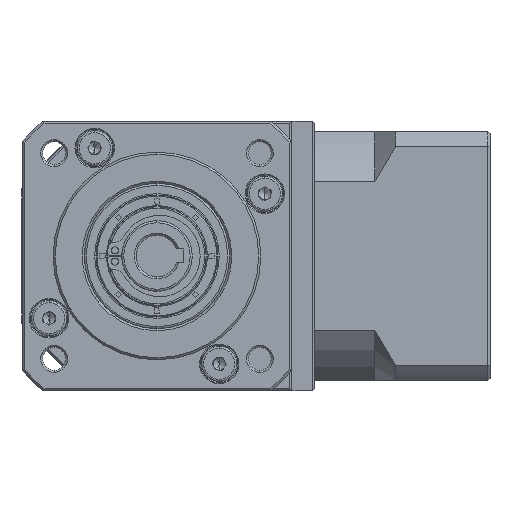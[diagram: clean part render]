
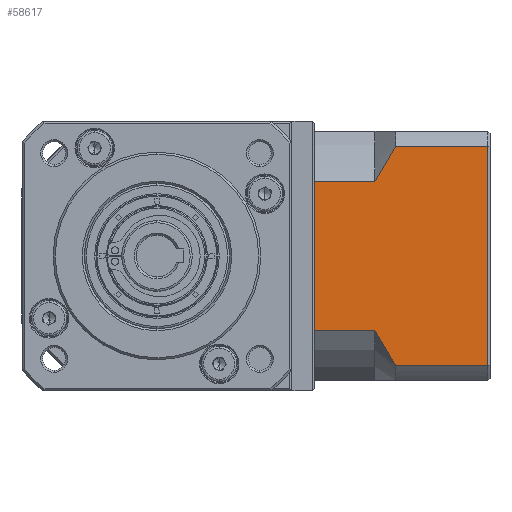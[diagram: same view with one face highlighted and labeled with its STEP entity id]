
A CAD part, left-side view. The second image highlights one B-rep face of the part: STEP entity #58617.
In plain terms, the highlighted planar face has unit normal (-1, 0, 0).
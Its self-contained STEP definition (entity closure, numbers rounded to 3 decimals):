
#356 = EDGE_CURVE ( 'NONE', #2606, #156313, #137931, .T. ) ;
#2606 = VERTEX_POINT ( 'NONE', #99422 ) ;
#3398 = CARTESIAN_POINT ( 'NONE',  ( 16.666, -16.042, 86.242 ) ) ;
#7091 = CARTESIAN_POINT ( 'NONE',  ( 16.666, -38.242, 82.7 ) ) ;
#7481 = VERTEX_POINT ( 'NONE', #78377 ) ;
#9018 = VECTOR ( 'NONE', #60978, 1000. ) ;
#11807 = CARTESIAN_POINT ( 'NONE',  ( 16.666, -11.042, 130.728 ) ) ;
#11902 = CARTESIAN_POINT ( 'NONE',  ( 16.666, -38.242, 86.242 ) ) ;
#12862 = LINE ( 'NONE', #11807, #9018 ) ;
#19590 = LINE ( 'NONE', #101811, #113269 ) ;
#20194 = AXIS2_PLACEMENT_3D ( 'NONE', #67089, #152457, #79294 ) ;
#24081 = VECTOR ( 'NONE', #120190, 1000. ) ;
#24131 = ORIENTED_EDGE ( 'NONE', *, *, #106243, .T. ) ;
#24356 = CARTESIAN_POINT ( 'NONE',  ( 16.666, -16.042, 86.242 ) ) ;
#27443 = CARTESIAN_POINT ( 'NONE',  ( 16.666, -11.793, 93.216 ) ) ;
#31497 = ORIENTED_EDGE ( 'NONE', *, *, #44736, .F. ) ;
#35590 = CARTESIAN_POINT ( 'NONE',  ( 16.666, -15.143, 137.798 ) ) ;
#39695 = ORIENTED_EDGE ( 'NONE', *, *, #108577, .T. ) ;
#43617 = CARTESIAN_POINT ( 'NONE',  ( 16.666, 3.458, 94.672 ) ) ;
#44736 = EDGE_CURVE ( 'NONE', #2606, #7481, #112936, .T. ) ;
#47858 = CARTESIAN_POINT ( 'NONE',  ( 16.666, -16.042, 139.158 ) ) ;
#48950 = EDGE_LOOP ( 'NONE', ( #111542, #24131, #31497, #78136, #126524, #76970, #112352, #39695 ) ) ;
#49771 = CARTESIAN_POINT ( 'NONE',  ( 16.666, -11.042, 139.158 ) ) ;
#56509 = LINE ( 'NONE', #156492, #24081 ) ;
#58617 = ADVANCED_FACE ( 'NONE', ( #70610 ), #91034, .F. ) ;
#60128 = CARTESIAN_POINT ( 'NONE',  ( 16.666, -11.79, 132.18 ) ) ;
#60978 = DIRECTION ( 'NONE',  ( 0., -1., 0. ) ) ;
#62065 = DIRECTION ( 'NONE',  ( 0., -1., 0. ) ) ;
#62519 = CARTESIAN_POINT ( 'NONE',  ( 16.666, -11.042, 130.728 ) ) ;
#64301 = CARTESIAN_POINT ( 'NONE',  ( 16.666, -12.593, 91.79 ) ) ;
#67089 = CARTESIAN_POINT ( 'NONE',  ( 16.666, -38.742, 82.7 ) ) ;
#67768 = EDGE_CURVE ( 'NONE', #74781, #97703, #56509, .T. ) ;
#68114 = LINE ( 'NONE', #156341, #96758 ) ;
#70610 = FACE_OUTER_BOUND ( 'NONE', #48950, .T. ) ;
#74781 = VERTEX_POINT ( 'NONE', #95345 ) ;
#74902 = VERTEX_POINT ( 'NONE', #24356 ) ;
#76008 = CARTESIAN_POINT ( 'NONE',  ( 16.666, -11.042, 94.672 ) ) ;
#76539 = CARTESIAN_POINT ( 'NONE',  ( 16.666, -15.141, 87.605 ) ) ;
#76970 = ORIENTED_EDGE ( 'NONE', *, *, #87639, .T. ) ;
#78136 = ORIENTED_EDGE ( 'NONE', *, *, #356, .T. ) ;
#78244 = DIRECTION ( 'NONE',  ( 0., 0., -1. ) ) ;
#78377 = CARTESIAN_POINT ( 'NONE',  ( 16.666, -38.242, 139.158 ) ) ;
#78499 = LINE ( 'NONE', #7091, #111028 ) ;
#79294 = DIRECTION ( 'NONE',  ( 0., 1., 0. ) ) ;
#79435 = VERTEX_POINT ( 'NONE', #11902 ) ;
#80168 = VERTEX_POINT ( 'NONE', #151051 ) ;
#80245 = DIRECTION ( 'NONE',  ( 0., 0., 1. ) ) ;
#80967 = CARTESIAN_POINT ( 'NONE',  ( 16.666, -11.042, 130.728 ) ) ;
#87639 = EDGE_CURVE ( 'NONE', #80168, #97703, #19590, .T. ) ;
#91034 = PLANE ( 'NONE',  #20194 ) ;
#95345 = CARTESIAN_POINT ( 'NONE',  ( 16.666, -11.042, 94.672 ) ) ;
#96758 = VECTOR ( 'NONE', #107756, 1000. ) ;
#97703 = VERTEX_POINT ( 'NONE', #43617 ) ;
#99422 = CARTESIAN_POINT ( 'NONE',  ( 16.666, -16.042, 139.158 ) ) ;
#101811 = CARTESIAN_POINT ( 'NONE',  ( 16.666, 3.458, 82.7 ) ) ;
#106243 = EDGE_CURVE ( 'NONE', #79435, #7481, #78499, .T. ) ;
#107598 = EDGE_CURVE ( 'NONE', #79435, #74902, #68114, .T. ) ;
#107756 = DIRECTION ( 'NONE',  ( 0., 1., 0. ) ) ;
#108577 = EDGE_CURVE ( 'NONE', #74781, #74902, #157008, .T. ) ;
#109070 = VECTOR ( 'NONE', #62065, 1000. ) ;
#111028 = VECTOR ( 'NONE', #80245, 1000. ) ;
#111542 = ORIENTED_EDGE ( 'NONE', *, *, #107598, .F. ) ;
#112352 = ORIENTED_EDGE ( 'NONE', *, *, #67768, .F. ) ;
#112936 = LINE ( 'NONE', #49771, #109070 ) ;
#113269 = VECTOR ( 'NONE', #78244, 1000. ) ;
#120190 = DIRECTION ( 'NONE',  ( 0., 1., 0. ) ) ;
#120454 = CARTESIAN_POINT ( 'NONE',  ( 16.666, -14.27, 136.419 ) ) ;
#126524 = ORIENTED_EDGE ( 'NONE', *, *, #129886, .F. ) ;
#129886 = EDGE_CURVE ( 'NONE', #80168, #156313, #12862, .T. ) ;
#133275 = CARTESIAN_POINT ( 'NONE',  ( 16.666, -12.594, 133.611 ) ) ;
#137931 = B_SPLINE_CURVE_WITH_KNOTS ( 'NONE', 3,
 ( #47858, #35590, #120454, #133275, #60128, #62519 ),
 .UNSPECIFIED., .F., .F.,
 ( 4, 2, 4 ),
 ( 0.052, 0.057, 0.062 ),
 .UNSPECIFIED. ) ;
#149712 = CARTESIAN_POINT ( 'NONE',  ( 16.666, -14.267, 88.985 ) ) ;
#151051 = CARTESIAN_POINT ( 'NONE',  ( 16.666, 3.458, 130.728 ) ) ;
#152457 = DIRECTION ( 'NONE',  ( 1., 0., 0. ) ) ;
#156313 = VERTEX_POINT ( 'NONE', #80967 ) ;
#156341 = CARTESIAN_POINT ( 'NONE',  ( 16.666, -11.042, 86.242 ) ) ;
#156492 = CARTESIAN_POINT ( 'NONE',  ( 16.666, -11.042, 94.672 ) ) ;
#157008 = B_SPLINE_CURVE_WITH_KNOTS ( 'NONE', 3,
 ( #76008, #27443, #64301, #149712, #76539, #3398 ),
 .UNSPECIFIED., .F., .F.,
 ( 4, 2, 4 ),
 ( 0.1, 0.104, 0.109 ),
 .UNSPECIFIED. ) ;
